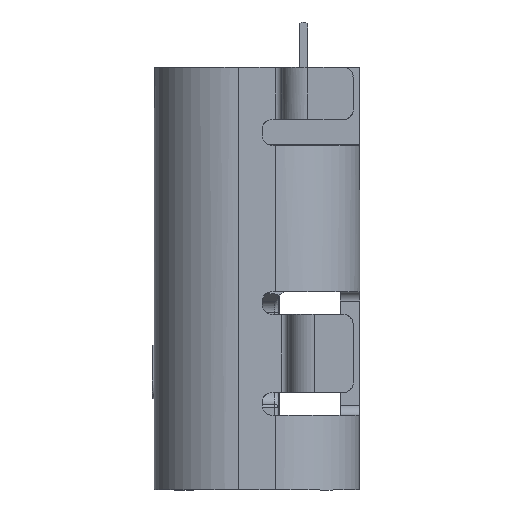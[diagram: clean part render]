
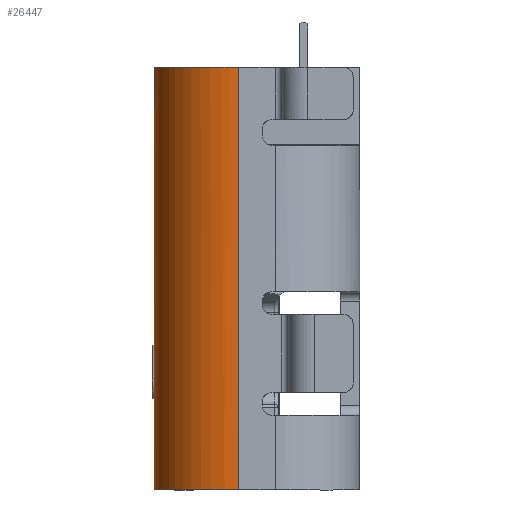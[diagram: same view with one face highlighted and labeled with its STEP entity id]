
A CAD part, left-side view. The second image highlights one B-rep face of the part: STEP entity #26447.
In plain terms, the highlighted free-form (B-spline) face has degree [1, 3] with [2, 4] control points.
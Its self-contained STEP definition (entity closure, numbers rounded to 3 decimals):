
#764 = ORIENTED_EDGE ( 'NONE', *, *, #19308, .F. ) ;
#1007 = CARTESIAN_POINT ( 'NONE',  ( -1.744, 7.248, -7.598 ) ) ;
#1395 = CARTESIAN_POINT ( 'NONE',  ( -0.444, 8.376, -1.098 ) ) ;
#1606 = EDGE_LOOP ( 'NONE', ( #3428, #764, #22023, #8416 ) ) ;
#1755 = B_SPLINE_CURVE_WITH_KNOTS ( 'NONE', 3,
 ( #2824, #1007, #18000, #7595, #11809, #11676, #7178, #20509, #5207, #2978 ),
 .UNSPECIFIED., .F., .F.,
 ( 4, 2, 2, 2, 4 ),
 ( 0., 0.25, 0.5, 0.75, 1. ),
 .UNSPECIFIED. ) ;
#2435 = VERTEX_POINT ( 'NONE', #15921 ) ;
#2756 = B_SPLINE_CURVE_WITH_KNOTS ( 'NONE', 3,
 ( #3285, #24325, #9750, #26838, #16205, #24740, #22641, #3963, #6063, #12385 ),
 .UNSPECIFIED., .F., .F.,
 ( 4, 2, 2, 2, 4 ),
 ( 0., 0.25, 0.5, 0.75, 1. ),
 .UNSPECIFIED. ) ;
#2824 = CARTESIAN_POINT ( 'NONE',  ( -1.744, 7.076, -7.598 ) ) ;
#2978 = CARTESIAN_POINT ( 'NONE',  ( -0.444, 8.376, -7.598 ) ) ;
#3285 = CARTESIAN_POINT ( 'NONE',  ( -0.444, 8.376, -1.098 ) ) ;
#3428 = ORIENTED_EDGE ( 'NONE', *, *, #19553, .F. ) ;
#3963 = CARTESIAN_POINT ( 'NONE',  ( -1.711, 7.415, -1.098 ) ) ;
#5207 = CARTESIAN_POINT ( 'NONE',  ( -0.617, 8.376, -7.598 ) ) ;
#5213 = CARTESIAN_POINT ( 'NONE',  ( -0.444, 8.376, -1.098 ) ) ;
#5856 = VERTEX_POINT ( 'NONE', #25264 ) ;
#6063 = CARTESIAN_POINT ( 'NONE',  ( -1.744, 7.249, -1.098 ) ) ;
#6443 = FACE_OUTER_BOUND ( 'NONE', #1606, .T. ) ;
#7178 = CARTESIAN_POINT ( 'NONE',  ( -1.101, 8.211, -7.598 ) ) ;
#7320 = CARTESIAN_POINT ( 'NONE',  ( -1.744, 7.076, -5.431 ) ) ;
#7595 = CARTESIAN_POINT ( 'NONE',  ( -1.58, 7.733, -7.598 ) ) ;
#7712 = CARTESIAN_POINT ( 'NONE',  ( -0.444, 8.376, -7.598 ) ) ;
#8283 = CARTESIAN_POINT ( 'NONE',  ( -0.444, 8.376, -7.598 ) ) ;
#8416 = ORIENTED_EDGE ( 'NONE', *, *, #19594, .F. ) ;
#9110 = CARTESIAN_POINT ( 'NONE',  ( -1.744, 7.838, -1.098 ) ) ;
#9688 = CARTESIAN_POINT ( 'NONE',  ( -1.744, 7.838, -7.598 ) ) ;
#9750 = CARTESIAN_POINT ( 'NONE',  ( -0.783, 8.343, -1.098 ) ) ;
#11183 = EDGE_CURVE ( 'NONE', #2435, #26236, #15506, .T. ) ;
#11250 = CARTESIAN_POINT ( 'NONE',  ( -0.444, 8.376, -7.598 ) ) ;
#11510 = CARTESIAN_POINT ( 'NONE',  ( -1.744, 7.076, -7.598 ) ) ;
#11676 = CARTESIAN_POINT ( 'NONE',  ( -1.242, 8.117, -7.598 ) ) ;
#11809 = CARTESIAN_POINT ( 'NONE',  ( -1.485, 7.874, -7.598 ) ) ;
#12385 = CARTESIAN_POINT ( 'NONE',  ( -1.744, 7.076, -1.098 ) ) ;
#14063 = CARTESIAN_POINT ( 'NONE',  ( -1.744, 7.076, -7.598 ) ) ;
#15506 = B_SPLINE_CURVE_WITH_KNOTS ( 'NONE', 1,
 ( #5213, #11250 ),
 .UNSPECIFIED., .F., .F.,
 ( 2, 2 ),
 ( -1., 0. ),
 .UNSPECIFIED. ) ;
#15921 = CARTESIAN_POINT ( 'NONE',  ( -0.444, 8.376, -1.098 ) ) ;
#16205 = CARTESIAN_POINT ( 'NONE',  ( -1.242, 8.117, -1.098 ) ) ;
#17690 = CARTESIAN_POINT ( 'NONE',  ( -1.206, 8.376, -1.098 ) ) ;
#17855 = CARTESIAN_POINT ( 'NONE',  ( -1.744, 7.076, -3.265 ) ) ;
#18000 = CARTESIAN_POINT ( 'NONE',  ( -1.711, 7.415, -7.598 ) ) ;
#19308 = EDGE_CURVE ( 'NONE', #2435, #5856, #2756, .T. ) ;
#19553 = EDGE_CURVE ( 'NONE', #5856, #19849, #23519, .T. ) ;
#19594 = EDGE_CURVE ( 'NONE', #19849, #26236, #1755, .T. ) ;
#19781 = CARTESIAN_POINT ( 'NONE',  ( -1.744, 7.076, -1.098 ) ) ;
#19849 = VERTEX_POINT ( 'NONE', #26486 ) ;
#20509 = CARTESIAN_POINT ( 'NONE',  ( -0.783, 8.343, -7.598 ) ) ;
#22023 = ORIENTED_EDGE ( 'NONE', *, *, #11183, .T. ) ;
#22641 = CARTESIAN_POINT ( 'NONE',  ( -1.579, 7.733, -1.098 ) ) ;
#23519 = B_SPLINE_CURVE_WITH_KNOTS ( 'NONE', 3,
 ( #24429, #17855, #7320, #14063 ),
 .UNSPECIFIED., .F., .F.,
 ( 4, 4 ),
 ( 0., 1. ),
 .UNSPECIFIED. ) ;
#24325 = CARTESIAN_POINT ( 'NONE',  ( -0.617, 8.376, -1.098 ) ) ;
#24429 = CARTESIAN_POINT ( 'NONE',  ( -1.744, 7.076, -1.098 ) ) ;
#24740 = CARTESIAN_POINT ( 'NONE',  ( -1.485, 7.874, -1.098 ) ) ;
#25264 = CARTESIAN_POINT ( 'NONE',  ( -1.744, 7.076, -1.098 ) ) ;
#26236 = VERTEX_POINT ( 'NONE', #8283 ) ;
#26447 = ADVANCED_FACE ( 'NONE', ( #6443 ), #27740, .F. ) ;
#26486 = CARTESIAN_POINT ( 'NONE',  ( -1.744, 7.076, -7.598 ) ) ;
#26783 = CARTESIAN_POINT ( 'NONE',  ( -1.206, 8.376, -7.598 ) ) ;
#26838 = CARTESIAN_POINT ( 'NONE',  ( -1.101, 8.212, -1.098 ) ) ;
#27740 =( BOUNDED_SURFACE ( )  B_SPLINE_SURFACE ( 1, 3, ( 
 ( #19781, #9110, #17690, #1395 ),
 ( #11510, #9688, #26783, #7712 ) ),
 .UNSPECIFIED., .F., .F., .F. ) 
 B_SPLINE_SURFACE_WITH_KNOTS ( ( 2, 2 ),
 ( 4, 4 ),
 ( 0., 1. ),
 ( 0., 1. ),
 .UNSPECIFIED. ) 
 GEOMETRIC_REPRESENTATION_ITEM ( )  RATIONAL_B_SPLINE_SURFACE ( (
 ( 1., 0.805, 0.805, 1.),
 ( 1., 0.805, 0.805, 1.) ) ) 
 REPRESENTATION_ITEM ( '' )  SURFACE ( )  );
